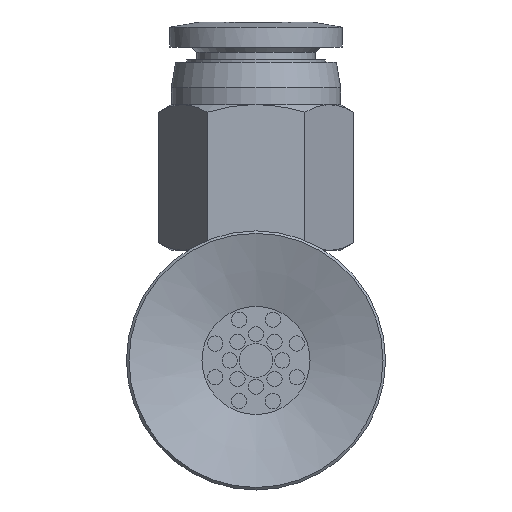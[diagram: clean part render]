
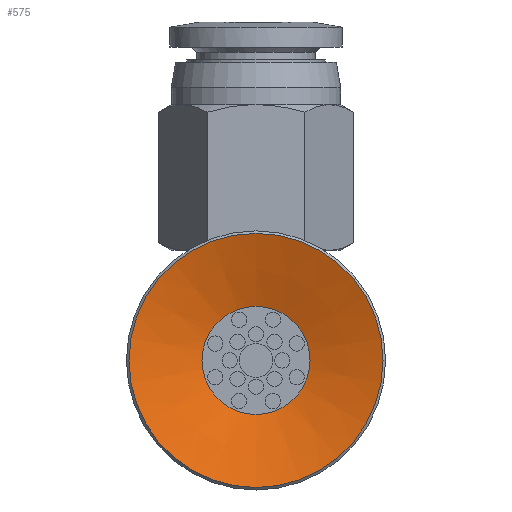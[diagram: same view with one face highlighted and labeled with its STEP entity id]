
A CAD part, front view. The second image highlights one B-rep face of the part: STEP entity #575.
In plain terms, the highlighted conical face has half-angle 72 degrees and reference radius 7.5 mm.
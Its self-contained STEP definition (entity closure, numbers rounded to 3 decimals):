
#575=ADVANCED_FACE('',(#962,#963),#964,.F.);
#962=FACE_BOUND('',#1448,.T.);
#963=FACE_OUTER_BOUND('',#1449,.T.);
#964=CONICAL_SURFACE('',#1450,7.5,1.257);
#1448=EDGE_LOOP('',(#2580));
#1449=EDGE_LOOP('',(#2581));
#1450=AXIS2_PLACEMENT_3D('',#2582,#2583,#2584);
#2580=ORIENTED_EDGE('',*,*,#3143,.T.);
#2581=ORIENTED_EDGE('',*,*,#3159,.F.);
#2582=CARTESIAN_POINT('',(0.0,0.,0.));
#2583=DIRECTION('',(0.0,0.,-1.0));
#2584=DIRECTION('',(0.0,1.0,0.));
#3143=EDGE_CURVE('',#3564,#3564,#3565,.T.);
#3159=EDGE_CURVE('',#3596,#3596,#3597,.T.);
#3564=VERTEX_POINT('',#4464);
#3565=CIRCLE('',#4465,3.191);
#3596=VERTEX_POINT('',#4496);
#3597=CIRCLE('',#4497,7.5);
#4464=CARTESIAN_POINT('',(0.0,-3.191,1.4));
#4465=AXIS2_PLACEMENT_3D('',#5279,#5280,#5281);
#4496=CARTESIAN_POINT('',(0.0,-7.5,0.));
#4497=AXIS2_PLACEMENT_3D('',#5327,#5328,#5329);
#5279=CARTESIAN_POINT('',(0.0,0.,1.4));
#5280=DIRECTION('',(0.0,0.,1.0));
#5281=DIRECTION('',(0.0,-1.0,0.));
#5327=CARTESIAN_POINT('',(0.0,0.,0.));
#5328=DIRECTION('',(0.0,0.,1.0));
#5329=DIRECTION('',(0.0,-1.0,0.));
